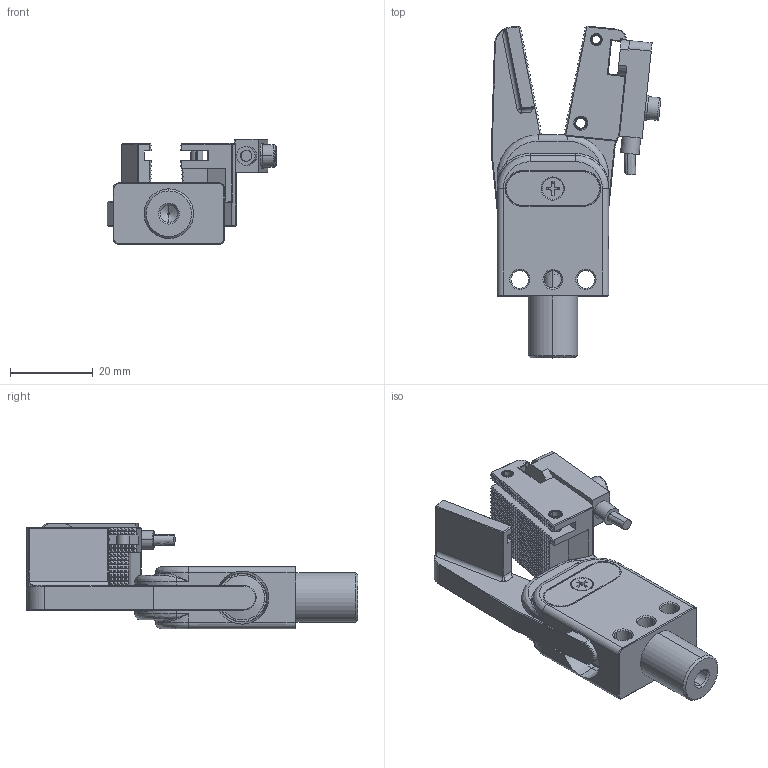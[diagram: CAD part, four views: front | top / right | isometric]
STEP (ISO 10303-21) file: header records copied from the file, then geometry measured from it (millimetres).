
FILE_DESCRIPTION (( 'STEP AP203' ), '1' );
FILE_NAME ('GR12L-12-(CP CN)装配.STEP', '2023-12-25T09:36:51', ( '微软用户' ), ( '微软中国' ), 'SwSTEP 2.0', 'SolidWorks 2018', '' );
FILE_SCHEMA (( 'CONFIG_CONTROL_DESIGN' ));
Products named in the file (1): GR12L-12-(CP CN)蚾饜
Bounding box: 41.03 x 80.34 x 25.5 mm (x, y, z)
Volume: 20115.4 mm3; surface area: 13114 mm2
Topology: 1 solids, 17 shells, 3667 faces, 10711 edges, 7065 vertices
Faces by surface type: plane 3303, cylinder 173, cone 125, bspline 66
Entity records: 125382 total; most frequent: CARTESIAN_POINT 28507, ORIENTED_EDGE 21410, DIRECTION 18162, EDGE_CURVE 10705, LINE 9958, VECTOR 9958, VERTEX_POINT 7065, AXIS2_PLACEMENT_3D 4102
